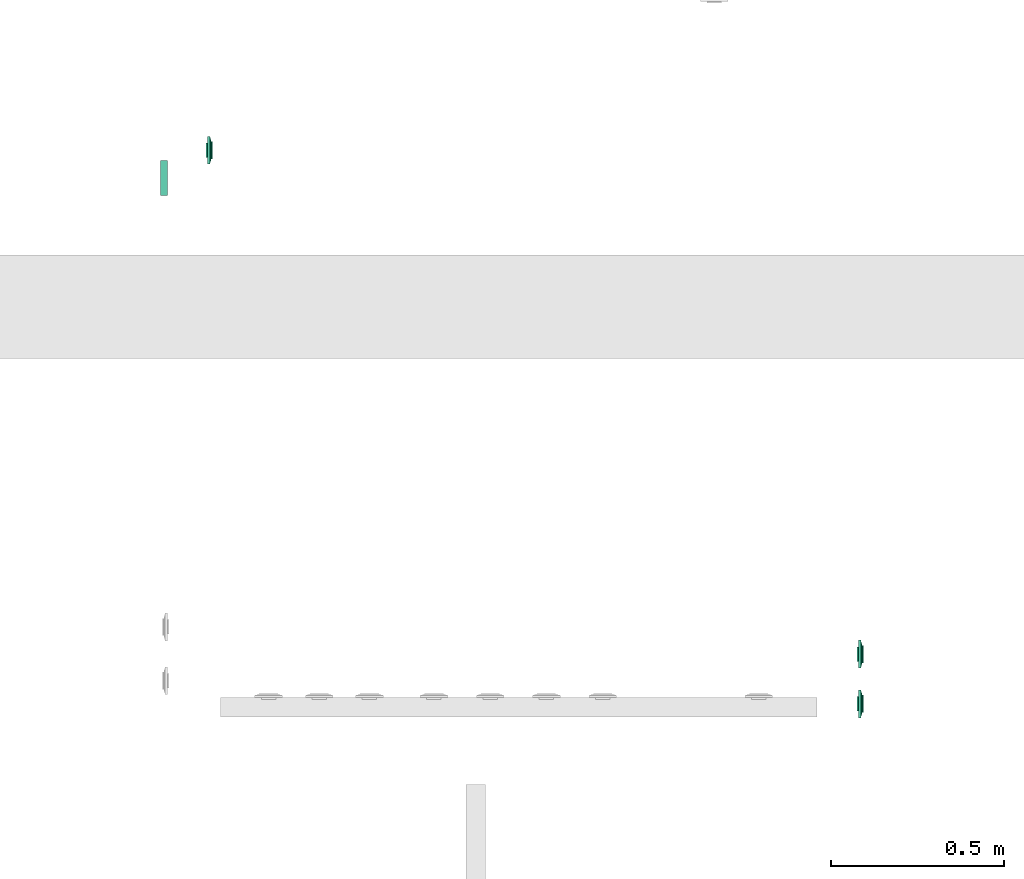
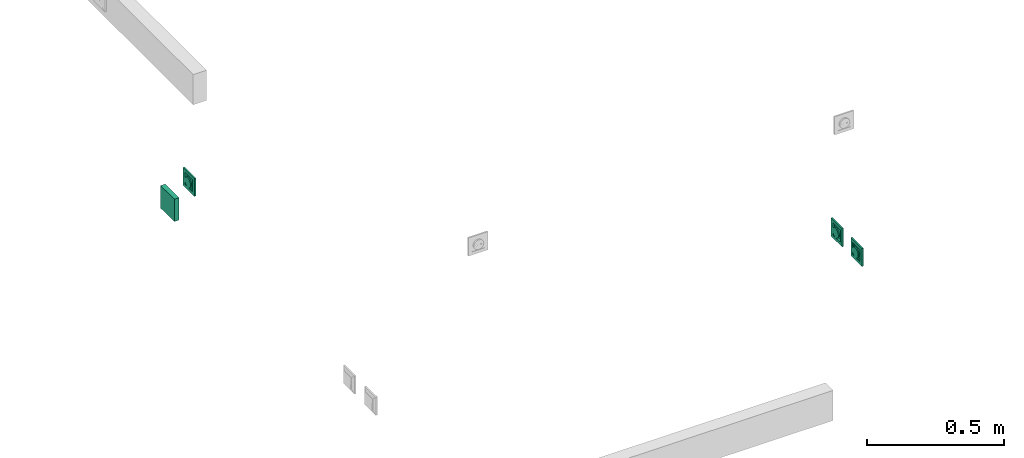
# One storey, part 32 of 166: 4 flow terminals.
"""IFC2X3 building model written with IfcOpenShell, lengths in metres."""

from ifc_helpers import new_model, entity, si_unit, converted_unit, derived_unit, direction, frame, origin, origin_2d_with_axis, place, context, subcontext, project, spatial, rectangle, extrude, faceted_brep, source, transform, mapped, type_object, type_shapes, element, save


model = new_model("IFC2X3")

# Units and contexts
model_context = context("Model", 3, precision=1e-05, world=origin(), true_north=direction((6.12303176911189e-17, 1.0)))
body_context = subcontext(model_context, "Body", "Model", "MODEL_VIEW")
ifc_project = project(units=[si_unit("LENGTHUNIT", "METRE"), si_unit("AREAUNIT", "SQUARE_METRE"), si_unit("VOLUMEUNIT", "CUBIC_METRE"), converted_unit("PLANEANGLEUNIT", "DEGREE", entity("IfcRatioMeasure", 0.0174532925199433), si_unit("PLANEANGLEUNIT", "RADIAN"), dimensions=[0, 0, 0, 0, 0, 0, 0]), si_unit("MASSUNIT", "GRAM", prefix="KILO"), derived_unit("MASSDENSITYUNIT", [(si_unit("MASSUNIT", "GRAM", prefix="KILO"), 1), (si_unit("LENGTHUNIT", "METRE"), -3)]), si_unit("TIMEUNIT", "SECOND"), si_unit("FREQUENCYUNIT", "HERTZ"), si_unit("THERMODYNAMICTEMPERATUREUNIT", "DEGREE_CELSIUS"), derived_unit("THERMALTRANSMITTANCEUNIT", [(si_unit("MASSUNIT", "GRAM", prefix="KILO"), 1), (si_unit("THERMODYNAMICTEMPERATUREUNIT", "KELVIN"), -1), (si_unit("TIMEUNIT", "SECOND"), -3)]), derived_unit("VOLUMETRICFLOWRATEUNIT", [(si_unit("LENGTHUNIT", "METRE"), 3), (si_unit("TIMEUNIT", "SECOND"), -1)]), si_unit("ELECTRICCURRENTUNIT", "AMPERE"), si_unit("ELECTRICVOLTAGEUNIT", "VOLT"), si_unit("POWERUNIT", "WATT"), si_unit("FORCEUNIT", "NEWTON"), si_unit("ILLUMINANCEUNIT", "LUX"), si_unit("LUMINOUSFLUXUNIT", "LUMEN"), si_unit("LUMINOUSINTENSITYUNIT", "CANDELA"), derived_unit("USERDEFINED", [(si_unit("MASSUNIT", "GRAM", prefix="KILO"), -1), (si_unit("LENGTHUNIT", "METRE"), -2), (si_unit("TIMEUNIT", "SECOND"), 3), (si_unit("LUMINOUSFLUXUNIT", "LUMEN"), 1)]), derived_unit("LINEARVELOCITYUNIT", [(si_unit("LENGTHUNIT", "METRE"), 1), (si_unit("TIMEUNIT", "SECOND"), -1)]), si_unit("PRESSUREUNIT", "PASCAL"), derived_unit("USERDEFINED", [(si_unit("LENGTHUNIT", "METRE"), -2), (si_unit("MASSUNIT", "GRAM", prefix="KILO"), 1), (si_unit("TIMEUNIT", "SECOND"), -2)])], contexts=[model_context])

# Site, building, storey
site_placement = place(None, origin())
site = spatial("IfcSite", under=ifc_project, at=site_placement, Name="Default", CompositionType="ELEMENT")
building_placement = place(site_placement, origin())
building = spatial("IfcBuilding", under=site, at=building_placement, CompositionType="ELEMENT")
storey_placement = place(building_placement, frame((0.0, 0.0, 4.27)))
storey = spatial("IfcBuildingStorey", under=building, at=storey_placement, Name="01", CompositionType="ELEMENT", Elevation=4.27)

# Flow terminals
light_fixture_type_1 = type_object("IfcLightFixtureType", Name="Default", PredefinedType="NOTDEFINED")
shared_shape_1 = source(origin(), body_context, "Body", "SweptSolid", [
    extrude(rectangle(XDim=0.1, YDim=0.1, at=origin_2d_with_axis()), frame((0.0, 0.0, 0.0), z_axis=(0.0, 0.0, 1.0), x_axis=(0.0, 1.0, 0.0)), (0.0, 0.0, 1.0), 0.02),
])
type_shapes(light_fixture_type_1, [shared_shape_1])
flow_terminal_1_placement = place(building_placement, frame((28.4897436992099, -189.024076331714, 5.32000000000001), z_axis=(-1.0, 0.0, 0.0), x_axis=(0.0, -1.0, 0.0)))
element("IfcFlowTerminal", 1, at=flow_terminal_1_placement, inside=storey, type_object=light_fixture_type_1, Name="E_Reader_Badge 1_F_MEPcontent:Default", ObjectType="E_Reader_Badge 1_F_MEPcontent:Default", context=body_context, shape_type="MappedRepresentation", body=[
    mapped(shared_shape_1, transform((0.0, 0.0, 0.0), scale=1.0)),
])
light_fixture_type_2 = type_object("IfcLightFixtureType", Name="SA IP21", PredefinedType="NOTDEFINED")
shared_shape_2 = source(origin(), body_context, "Body", "Brep", [
    faceted_brep([(0.0, 0.0209999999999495, -0.00460000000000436), (0.00543519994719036, 0.02028444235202, -0.00460000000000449), (0.0105000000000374, 0.0181865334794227, -0.00460000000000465), (0.0148492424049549, 0.014849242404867, -0.00460000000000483), (0.0181865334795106, 0.0104999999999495, -0.00460000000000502), (0.0202844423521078, 0.00543519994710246, -0.00460000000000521), (0.0210000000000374, 0.0, -0.00460000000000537), (0.0202844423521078, -0.00543519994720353, -0.00460000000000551), (0.0181865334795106, -0.0105000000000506, -0.0046000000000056), (0.0148492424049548, -0.0148492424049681, -0.00460000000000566), (0.0105000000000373, -0.0181865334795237, -0.00460000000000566), (0.00543519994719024, -0.0202844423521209, -0.00460000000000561), (0.0, -0.0210000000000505, -0.00460000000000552), (-0.00543519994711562, -0.0202844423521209, -0.00460000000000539), (-0.0104999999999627, -0.0181865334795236, -0.00460000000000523), (-0.0148492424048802, -0.0148492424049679, -0.00460000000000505), (-0.0181865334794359, -0.0105000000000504, -0.00460000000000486), (-0.0202844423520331, -0.00543519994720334, -0.00460000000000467), (-0.0209999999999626, 0.0, -0.00460000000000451), (-0.020284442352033, 0.00543519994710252, -0.00460000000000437), (-0.0181865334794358, 0.0104999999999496, -0.00460000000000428), (-0.0148492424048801, 0.0148492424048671, -0.00460000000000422), (-0.0104999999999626, 0.0181865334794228, -0.00460000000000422), (-0.00543519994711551, 0.02028444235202, -0.00460000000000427), (-0.020284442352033, -0.00543519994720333, 0.0), (-0.0209999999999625, 0.0, 0.0), (-0.0181865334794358, -0.0105000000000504, 0.0), (-0.0104999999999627, -0.0181865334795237, 0.0), (-0.0148492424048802, -0.0148492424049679, 0.0), (-0.00543519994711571, -0.020284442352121, 0.0), (0.0, -0.0210000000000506, 0.0), (0.00543519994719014, -0.0202844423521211, 0.0), (0.0105000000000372, -0.018186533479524, 0.0), (0.0181865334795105, -0.0105000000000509, 0.0), (0.0148492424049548, -0.0148492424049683, 0.0), (0.0202844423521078, -0.00543519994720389, 0.0), (0.0210000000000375, 0.0, 0.0), (0.0202844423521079, 0.00543519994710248, 0.0), (0.0181865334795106, 0.0104999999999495, 0.0), (0.0105000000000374, 0.0181865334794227, 0.0), (0.0148492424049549, 0.014849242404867, 0.0), (0.00543519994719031, 0.0202844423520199, 0.0), (0.0, 0.0209999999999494, 0.0), (-0.00543519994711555, 0.0202844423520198, 0.0), (-0.0104999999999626, 0.0181865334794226, 0.0), (-0.0181865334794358, 0.0104999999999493, 0.0), (-0.0148492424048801, 0.0148492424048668, 0.0), (-0.020284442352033, 0.00543519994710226, 0.0)], [[[0, 1, 2, 3, 4, 5, 6, 7, 8, 9, 10, 11, 12, 13, 14, 15, 16, 17, 18, 19, 20, 21, 22, 23]], [[17, 24, 25, 18]], [[16, 26, 24, 17]], [[27, 28, 15, 14]], [[16, 15, 28, 26]], [[29, 27, 14, 13]], [[30, 29, 13, 12]], [[11, 31, 30, 12]], [[10, 32, 31, 11]], [[33, 34, 9, 8]], [[10, 9, 34, 32]], [[35, 33, 8, 7]], [[36, 35, 7, 6]], [[5, 37, 36, 6]], [[4, 38, 37, 5]], [[39, 40, 3, 2]], [[4, 3, 40, 38]], [[41, 39, 2, 1]], [[42, 41, 1, 0]], [[23, 43, 42, 0]], [[22, 44, 43, 23]], [[45, 46, 21, 20]], [[22, 21, 46, 44]], [[47, 45, 20, 19]], [[25, 47, 19, 18]], [[25, 24, 26, 28, 27, 29, 30, 31, 32, 34, 33, 35, 36, 37, 38, 40, 39, 41, 42, 43, 44, 46, 45, 47]]]),
    faceted_brep([(0.0270000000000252, 0.026999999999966, 0.0103999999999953), (-0.0269999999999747, 0.026999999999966, 0.0103999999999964), (-0.0269999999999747, -0.0270000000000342, 0.0103999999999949), (0.0270000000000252, -0.0270000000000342, 0.0103999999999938), (-0.0254999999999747, 0.0258096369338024, 0.0103999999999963), (0.0255000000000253, 0.0258096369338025, 0.0103999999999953), (0.0255000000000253, -0.0255000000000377, 0.0103999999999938), (-0.0254999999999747, -0.0255000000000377, 0.0103999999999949), (0.0270000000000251, 0.0269999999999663, 0.00199999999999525), (0.0270000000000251, -0.0270000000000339, 0.00199999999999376), (-0.0269999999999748, -0.0270000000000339, 0.00199999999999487), (-0.0269999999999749, 0.0269999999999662, 0.00199999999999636), (0.0255000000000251, 0.0258096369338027, 0.00199999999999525), (-0.0254999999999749, 0.0258096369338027, 0.0019999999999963), (-0.0254999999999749, -0.0255000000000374, 0.00199999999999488), (0.0255000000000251, -0.0255000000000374, 0.00199999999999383)], [[[0, 1, 2, 3], [4, 5, 6, 7]], [[8, 9, 10, 11], [12, 13, 14, 15]], [[1, 0, 8, 11]], [[2, 1, 11, 10]], [[3, 2, 10, 9]], [[0, 3, 9, 8]], [[12, 5, 4, 13]], [[13, 4, 7, 14]], [[14, 7, 6, 15]], [[5, 12, 15, 6]]]),
    faceted_brep([(0.0250000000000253, 0.0253096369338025, 0.00659999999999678), (0.0250000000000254, 0.0253096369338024, 0.0117095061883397), (0.0250000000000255, -0.0245000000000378, 0.0142232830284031), (0.0250000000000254, -0.0250000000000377, 0.0117095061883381), (0.0250000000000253, -0.0250000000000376, 0.00659999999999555), (-0.0249999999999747, 0.0253096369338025, 0.00659999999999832), (-0.0249999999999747, -0.0250000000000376, 0.00659999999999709), (-0.0249999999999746, -0.0250000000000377, 0.0117095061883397), (-0.0249999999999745, -0.0245000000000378, 0.0142232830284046), (-0.0249999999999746, 0.0253096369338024, 0.0117095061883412)], [[[0, 1, 2, 3, 4]], [[5, 6, 7, 8, 9]], [[1, 0, 5, 9]], [[2, 1, 9, 8]], [[3, 2, 8, 7]], [[4, 3, 7, 6]], [[0, 4, 6, 5]]]),
    faceted_brep([(0.027000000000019, 0.0269999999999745, 0.00659999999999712), (-0.0269999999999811, 0.0269999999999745, 0.00659999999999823), (-0.026999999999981, -0.0270000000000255, 0.00659999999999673), (0.027000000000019, -0.0270000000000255, 0.00659999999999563), (0.040350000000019, 0.0403499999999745, 0.00659999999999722), (0.040350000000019, -0.0403500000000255, 0.00659999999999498), (-0.0403499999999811, -0.0403500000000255, 0.00659999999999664), (-0.0403499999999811, 0.0403499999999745, 0.00659999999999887), (-0.026999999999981, 0.0269999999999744, 0.0103999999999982), (0.027000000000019, 0.0269999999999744, 0.0103999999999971), (-0.026999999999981, -0.0270000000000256, 0.0103999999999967), (0.027000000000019, -0.0270000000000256, 0.0103999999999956)], [[[0, 1, 2, 3], [4, 5, 6, 7]], [[4, 7, 8, 9]], [[7, 6, 10, 8]], [[6, 5, 11, 10]], [[5, 4, 9, 11]], [[0, 9, 8, 1]], [[1, 8, 10, 2]], [[2, 10, 11, 3]], [[9, 0, 3, 11]]], outer=[[False, True], [True], [True], [True], [True], [True], [True], [True], [True]]),
    faceted_brep([(0.040350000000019, 0.0403499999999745, 0.00659999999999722), (-0.0403499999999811, 0.0403499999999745, 0.00659999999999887), (-0.0403499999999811, -0.0403500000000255, 0.00659999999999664), (0.040350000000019, -0.0403500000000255, 0.00659999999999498), (-0.0269999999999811, 0.0269999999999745, 0.00659999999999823), (0.0270000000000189, 0.0269999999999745, 0.00659999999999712), (0.0270000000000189, -0.0270000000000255, 0.00659999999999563), (-0.0269999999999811, -0.0270000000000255, 0.00659999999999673), (0.0403500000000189, 0.0403499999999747, 0.0), (0.0403500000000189, -0.0403500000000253, 0.0), (-0.0403499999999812, -0.0403500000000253, 0.0), (-0.0403499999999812, 0.0403499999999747, 0.0), (0.0270000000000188, 0.0269999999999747, 0.0), (-0.0269999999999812, 0.0269999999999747, 0.0), (-0.0269999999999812, -0.0270000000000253, 0.0), (0.0270000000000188, -0.0270000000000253, 0.0)], [[[0, 1, 2, 3], [4, 5, 6, 7]], [[8, 9, 10, 11], [12, 13, 14, 15]], [[1, 0, 8, 11]], [[2, 1, 11, 10]], [[3, 2, 10, 9]], [[0, 3, 9, 8]], [[12, 5, 4, 13]], [[13, 4, 7, 14]], [[14, 7, 6, 15]], [[5, 12, 15, 6]]]),
])
type_shapes(light_fixture_type_2, [shared_shape_2])
flow_terminal_2_placement = place(building_placement, frame((28.6057436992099, -188.943664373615, 5.32000000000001), z_axis=(1.0, 0.0, 0.0), x_axis=(0.0, 1.0, 0.0)))
element("IfcFlowTerminal", 2, at=flow_terminal_2_placement, inside=storey, type_object=light_fixture_type_2, Name="INT_Inter SA:SA IP21", ObjectType="INT_Inter SA:SA IP21", context=body_context, shape_type="MappedRepresentation", body=[
    mapped(shared_shape_2, transform((0.0, 0.0, 0.0), scale=1.0)),
])
light_fixture_type_3 = type_object("IfcLightFixtureType", Name="BP IP21", PredefinedType="NOTDEFINED")
shared_shape_3 = source(origin(), body_context, "Body", "Brep", [
    faceted_brep([(0.0, 0.0209999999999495, -0.00460000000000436), (0.00543519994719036, 0.02028444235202, -0.00460000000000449), (0.0105000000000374, 0.0181865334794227, -0.00460000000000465), (0.0148492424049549, 0.014849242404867, -0.00460000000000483), (0.0181865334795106, 0.0104999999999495, -0.00460000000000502), (0.0202844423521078, 0.00543519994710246, -0.00460000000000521), (0.0210000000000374, 0.0, -0.00460000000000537), (0.0202844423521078, -0.00543519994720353, -0.00460000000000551), (0.0181865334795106, -0.0105000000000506, -0.0046000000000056), (0.0148492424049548, -0.0148492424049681, -0.00460000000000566), (0.0105000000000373, -0.0181865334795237, -0.00460000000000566), (0.00543519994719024, -0.0202844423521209, -0.00460000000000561), (0.0, -0.0210000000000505, -0.00460000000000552), (-0.00543519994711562, -0.0202844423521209, -0.00460000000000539), (-0.0104999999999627, -0.0181865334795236, -0.00460000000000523), (-0.0148492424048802, -0.0148492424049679, -0.00460000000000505), (-0.0181865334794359, -0.0105000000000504, -0.00460000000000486), (-0.0202844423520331, -0.00543519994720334, -0.00460000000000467), (-0.0209999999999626, 0.0, -0.00460000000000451), (-0.020284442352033, 0.00543519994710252, -0.00460000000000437), (-0.0181865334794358, 0.0104999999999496, -0.00460000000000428), (-0.0148492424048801, 0.0148492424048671, -0.00460000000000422), (-0.0104999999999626, 0.0181865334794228, -0.00460000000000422), (-0.00543519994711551, 0.02028444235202, -0.00460000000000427), (-0.020284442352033, -0.00543519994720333, 0.0), (-0.0209999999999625, 0.0, 0.0), (-0.0181865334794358, -0.0105000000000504, 0.0), (-0.0104999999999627, -0.0181865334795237, 0.0), (-0.0148492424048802, -0.0148492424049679, 0.0), (-0.00543519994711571, -0.020284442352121, 0.0), (0.0, -0.0210000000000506, 0.0), (0.00543519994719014, -0.0202844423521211, 0.0), (0.0105000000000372, -0.018186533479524, 0.0), (0.0181865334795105, -0.0105000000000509, 0.0), (0.0148492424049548, -0.0148492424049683, 0.0), (0.0202844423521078, -0.00543519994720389, 0.0), (0.0210000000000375, 0.0, 0.0), (0.0202844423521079, 0.00543519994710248, 0.0), (0.0181865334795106, 0.0104999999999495, 0.0), (0.0105000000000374, 0.0181865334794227, 0.0), (0.0148492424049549, 0.014849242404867, 0.0), (0.00543519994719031, 0.0202844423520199, 0.0), (0.0, 0.0209999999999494, 0.0), (-0.00543519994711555, 0.0202844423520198, 0.0), (-0.0104999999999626, 0.0181865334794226, 0.0), (-0.0181865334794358, 0.0104999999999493, 0.0), (-0.0148492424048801, 0.0148492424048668, 0.0), (-0.020284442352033, 0.00543519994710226, 0.0)], [[[0, 1, 2, 3, 4, 5, 6, 7, 8, 9, 10, 11, 12, 13, 14, 15, 16, 17, 18, 19, 20, 21, 22, 23]], [[17, 24, 25, 18]], [[16, 26, 24, 17]], [[27, 28, 15, 14]], [[16, 15, 28, 26]], [[29, 27, 14, 13]], [[30, 29, 13, 12]], [[11, 31, 30, 12]], [[10, 32, 31, 11]], [[33, 34, 9, 8]], [[10, 9, 34, 32]], [[35, 33, 8, 7]], [[36, 35, 7, 6]], [[5, 37, 36, 6]], [[4, 38, 37, 5]], [[39, 40, 3, 2]], [[4, 3, 40, 38]], [[41, 39, 2, 1]], [[42, 41, 1, 0]], [[23, 43, 42, 0]], [[22, 44, 43, 23]], [[45, 46, 21, 20]], [[22, 21, 46, 44]], [[47, 45, 20, 19]], [[25, 47, 19, 18]], [[25, 24, 26, 28, 27, 29, 30, 31, 32, 34, 33, 35, 36, 37, 38, 40, 39, 41, 42, 43, 44, 46, 45, 47]]]),
    faceted_brep([(0.0270000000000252, 0.026999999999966, 0.0103999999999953), (-0.0269999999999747, 0.026999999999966, 0.0103999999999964), (-0.0269999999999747, -0.0270000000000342, 0.0103999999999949), (0.0270000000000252, -0.0270000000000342, 0.0103999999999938), (-0.0254999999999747, 0.0258096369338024, 0.0103999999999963), (0.0255000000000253, 0.0258096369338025, 0.0103999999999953), (0.0255000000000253, -0.0255000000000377, 0.0103999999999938), (-0.0254999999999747, -0.0255000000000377, 0.0103999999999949), (0.0270000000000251, 0.0269999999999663, 0.00199999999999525), (0.0270000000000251, -0.0270000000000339, 0.00199999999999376), (-0.0269999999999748, -0.0270000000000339, 0.00199999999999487), (-0.0269999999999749, 0.0269999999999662, 0.00199999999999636), (0.0255000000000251, 0.0258096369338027, 0.00199999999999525), (-0.0254999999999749, 0.0258096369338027, 0.0019999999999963), (-0.0254999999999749, -0.0255000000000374, 0.00199999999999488), (0.0255000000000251, -0.0255000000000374, 0.00199999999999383)], [[[0, 1, 2, 3], [4, 5, 6, 7]], [[8, 9, 10, 11], [12, 13, 14, 15]], [[1, 0, 8, 11]], [[2, 1, 11, 10]], [[3, 2, 10, 9]], [[0, 3, 9, 8]], [[12, 5, 4, 13]], [[13, 4, 7, 14]], [[14, 7, 6, 15]], [[5, 12, 15, 6]]]),
    faceted_brep([(0.0250000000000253, 0.0253096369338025, 0.00659999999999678), (0.0250000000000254, 0.0253096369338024, 0.0117095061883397), (0.0250000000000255, -0.0245000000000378, 0.0142232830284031), (0.0250000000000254, -0.0250000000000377, 0.0117095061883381), (0.0250000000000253, -0.0250000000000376, 0.00659999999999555), (-0.0249999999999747, 0.0253096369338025, 0.00659999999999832), (-0.0249999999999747, -0.0250000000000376, 0.00659999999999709), (-0.0249999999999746, -0.0250000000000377, 0.0117095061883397), (-0.0249999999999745, -0.0245000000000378, 0.0142232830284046), (-0.0249999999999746, 0.0253096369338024, 0.0117095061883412)], [[[0, 1, 2, 3, 4]], [[5, 6, 7, 8, 9]], [[1, 0, 5, 9]], [[2, 1, 9, 8]], [[3, 2, 8, 7]], [[4, 3, 7, 6]], [[0, 4, 6, 5]]]),
    faceted_brep([(0.027000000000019, 0.0269999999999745, 0.00659999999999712), (-0.0269999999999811, 0.0269999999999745, 0.00659999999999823), (-0.026999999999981, -0.0270000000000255, 0.00659999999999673), (0.027000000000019, -0.0270000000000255, 0.00659999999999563), (0.040350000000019, 0.0403499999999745, 0.00659999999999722), (0.040350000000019, -0.0403500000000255, 0.00659999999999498), (-0.0403499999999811, -0.0403500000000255, 0.00659999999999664), (-0.0403499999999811, 0.0403499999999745, 0.00659999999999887), (-0.026999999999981, 0.0269999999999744, 0.0103999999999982), (0.027000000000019, 0.0269999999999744, 0.0103999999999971), (-0.026999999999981, -0.0270000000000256, 0.0103999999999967), (0.027000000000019, -0.0270000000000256, 0.0103999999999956)], [[[0, 1, 2, 3], [4, 5, 6, 7]], [[4, 7, 8, 9]], [[7, 6, 10, 8]], [[6, 5, 11, 10]], [[5, 4, 9, 11]], [[0, 9, 8, 1]], [[1, 8, 10, 2]], [[2, 10, 11, 3]], [[9, 0, 3, 11]]], outer=[[False, True], [True], [True], [True], [True], [True], [True], [True], [True]]),
    faceted_brep([(0.040350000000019, 0.0403499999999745, 0.00659999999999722), (-0.0403499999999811, 0.0403499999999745, 0.00659999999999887), (-0.0403499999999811, -0.0403500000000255, 0.00659999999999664), (0.040350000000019, -0.0403500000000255, 0.00659999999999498), (-0.0269999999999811, 0.0269999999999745, 0.00659999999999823), (0.0270000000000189, 0.0269999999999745, 0.00659999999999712), (0.0270000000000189, -0.0270000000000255, 0.00659999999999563), (-0.0269999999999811, -0.0270000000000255, 0.00659999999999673), (0.0403500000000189, 0.0403499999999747, 0.0), (0.0403500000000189, -0.0403500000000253, 0.0), (-0.0403499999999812, -0.0403500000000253, 0.0), (-0.0403499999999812, 0.0403499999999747, 0.0), (0.0270000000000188, 0.0269999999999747, 0.0), (-0.0269999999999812, 0.0269999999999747, 0.0), (-0.0269999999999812, -0.0270000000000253, 0.0), (0.0270000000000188, -0.0270000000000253, 0.0)], [[[0, 1, 2, 3], [4, 5, 6, 7]], [[8, 9, 10, 11], [12, 13, 14, 15]], [[1, 0, 8, 11]], [[2, 1, 11, 10]], [[3, 2, 10, 9]], [[0, 3, 9, 8]], [[12, 5, 4, 13]], [[13, 4, 7, 14]], [[14, 7, 6, 15]], [[5, 12, 15, 6]]]),
])
type_shapes(light_fixture_type_3, [shared_shape_3])
for number, where, z_axis, x_axis in (
    (3, (30.4897436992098, -190.545879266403, 5.32000000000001), (1.0, 0.0, 0.0), (0.0, 1.0, 0.0)),
    (4, (30.4897436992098, -190.402006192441, 5.32000000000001), (1.0, 0.0, 0.0), (0.0, 1.0, 0.0)),
):
    element("IfcFlowTerminal", number, at=place(building_placement, frame(where, z_axis=z_axis, x_axis=x_axis)), inside=storey, type_object=light_fixture_type_3, Name="INT_Cmd BA:BP IP21", ObjectType="INT_Cmd BA:BP IP21", context=body_context, shape_type="MappedRepresentation", body=[
        mapped(shared_shape_3, transform((0.0, 0.0, 0.0), scale=1.0)),
    ])

save(model, "model.ifc")
